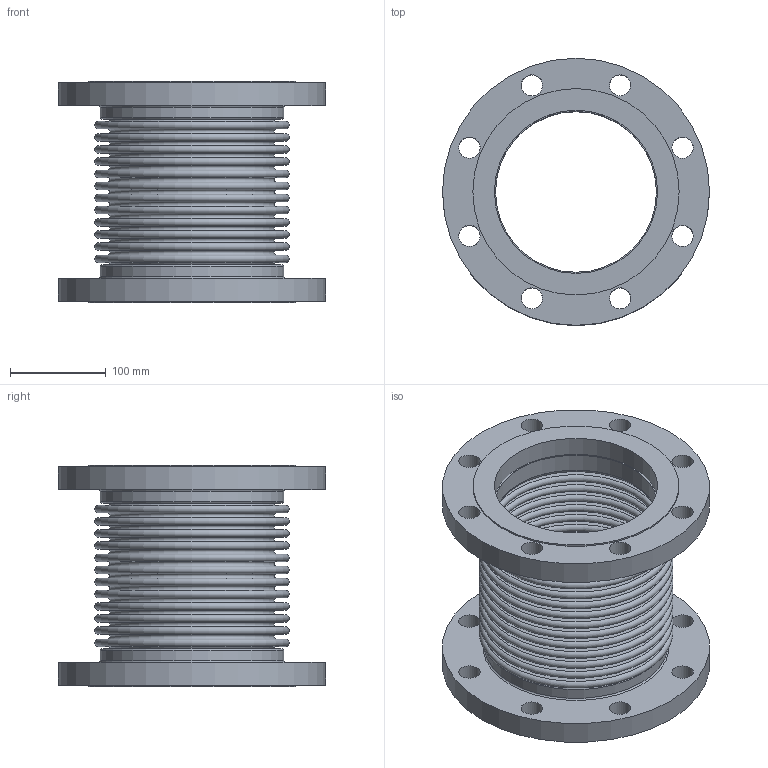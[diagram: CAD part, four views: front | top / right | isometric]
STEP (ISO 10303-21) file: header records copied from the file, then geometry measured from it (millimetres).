
FILE_DESCRIPTION(/* description */ ('EXPANSION JOINT,SINGLE, FLANGED ENDS,6 INCH NOMINAL','CAx-IF Rec.Pracs.---Representation and Presentation of Product Manufacturing Information (PMI)---4.0---2014-10-13'),/* implementation_level */ '2;1');
FILE_NAME(/* name */ 'US-06-12-300L-FLANGED ENDS.stp',/* time_stamp */ '2026-07-31T17:06:49-05:00',/* author */ ('Guadalupe'),/* organization */ (''),/* preprocessor_version */ 'ST-DEVELOPER v20.1',/* originating_system */ 'Autodesk Inventor 2026',/* authorisation */ '');
FILE_SCHEMA (('AP242_MANAGED_MODEL_BASED_3D_ENGINEERING_MIM_LF { 1 0 10303 442 2 1 4 }'));
Length unit declared in the file: inch
Products named in the file (3): 06-300L; 06-300L-02; 06-300L-01
Assembly tree (3 placements, depth 2):
  06-300L
    06-300L-02  x2
    06-300L-01
Bounding box: 279.4 x 279.4 x 231.65 mm (x, y, z)
Volume: 2350136.5 mm3; surface area: 863496.3 mm2
Topology: 5 solids, 5 shells, 144 faces, 246 edges, 164 vertices
Faces by surface type: plane 62, torus 54, cylinder 28
Full cylindrical faces by diameter (mm): 22.225 x16, 168.275 x2, 170.688 x2, 171.323 x2, 192.024 x2, 215.9 x2, 279.4 x2
Entity records: 3294 total; most frequent: DIRECTION 682, CARTESIAN_POINT 489, ORIENTED_EDGE 408, AXIS2_PLACEMENT_3D 333, EDGE_CURVE 204, EDGE_LOOP 200, CIRCLE 188, VERTEX_POINT 136
